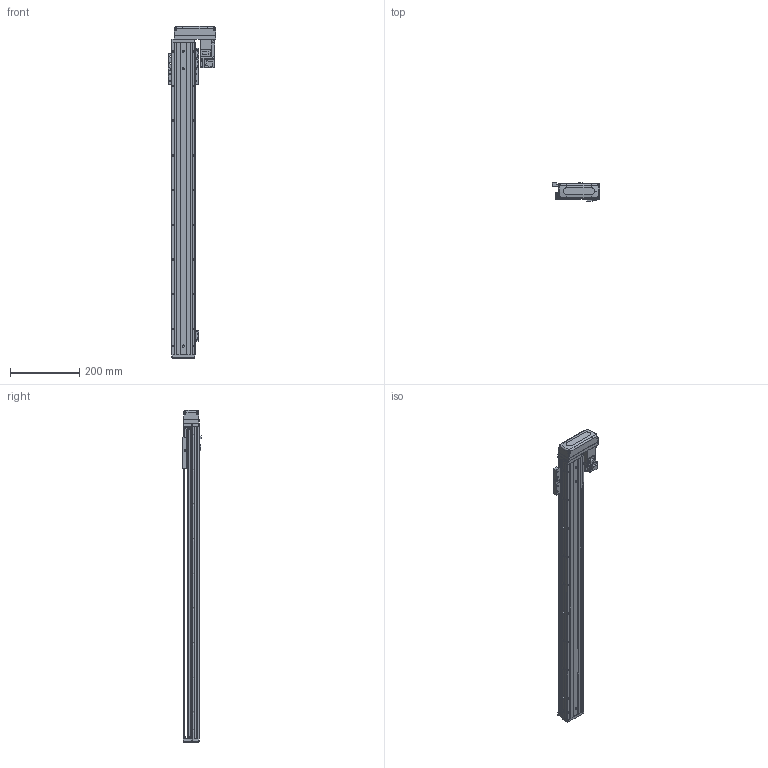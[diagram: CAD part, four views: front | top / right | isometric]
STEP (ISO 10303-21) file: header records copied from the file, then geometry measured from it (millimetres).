
FILE_DESCRIPTION (( 'STEP AP203' ), '1' );
FILE_NAME ('KTHAL60-750-BL-M10-C4L.step', '2022-03-19T08:39:12', ( '微软用户' ), ( '微软中国' ), 'SwSTEP 2.0', 'SolidWorks 2020', '' );
FILE_SCHEMA (( 'CONFIG_CONTROL_DESIGN' ));
Length unit declared in the file: millimetre
Products named in the file (18): EE_SX911P_R; HG-KR13（三菱）; CTHA60-017; CTHA60-015-2_CTHA60-015-2; CTHA60-021; KTHA60-001_900; CTHA60-033; KTHA60-004; GBT 70.1-M4×16; KTHLA60-002; GBT 70.1-M3×15; KTHA60-005; GBT77-2000M3-3; KTHAL60-750-BL-M10-C4L; GB¨uT 70.2-M3¡Á5_M3¡Á6; GBT 70.1-M3℅6; GBT 70.3-M3℅6; CTHA60-016
Assembly tree (51 placements, depth 2):
  KTHAL60-750-BL-M10-C4L
    KTHA60-001_900
    KTHLA60-002
    KTHA60-004
    KTHA60-005
    GB¨uT 70.2-M3¡Á5_M3¡Á6  x5
    GBT 70.3-M3℅6  x4
    EE_SX911P_R  x3
    CTHA60-017  x3
    CTHA60-021  x2
    GBT 70.1-M4×16  x10
    GBT77-2000M3-3  x6
    GBT 70.1-M3℅6  x6
    CTHA60-016
    HG-KR13（三菱）
    CTHA60-015-2_CTHA60-015-2
    CTHA60-033
    GBT 70.1-M3×15  x4
Bounding box: 137 x 53.3 x 957 mm (x, y, z)
Volume: 1943724 mm3; surface area: 480969.6 mm2
Topology: 54 solids, 54 shells, 2355 faces, 5611 edges, 3449 vertices
Faces by surface type: plane 1348, cylinder 577, cone 292, torus 98, bspline 26, sphere 14
Entity records: 41931 total; most frequent: CARTESIAN_POINT 7896, DIRECTION 6573, ORIENTED_EDGE 6366, EDGE_CURVE 3183, AXIS2_PLACEMENT_3D 2193, VECTOR 2187, LINE 2187, VERTEX_POINT 1998
